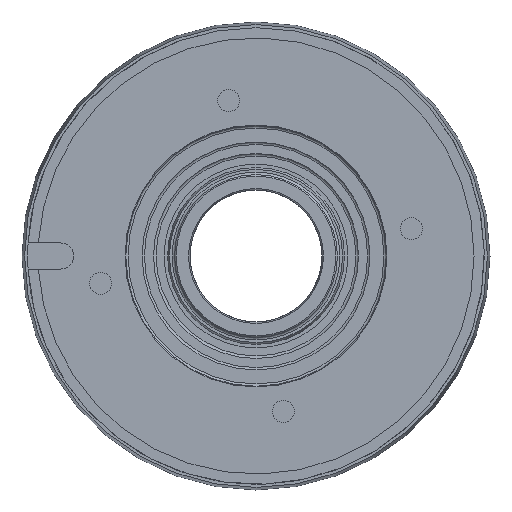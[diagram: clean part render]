
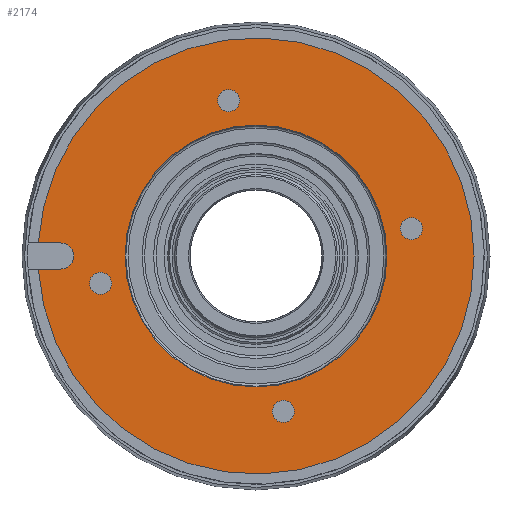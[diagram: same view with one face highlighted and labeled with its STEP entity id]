
A CAD part, left-side view. The second image highlights one B-rep face of the part: STEP entity #2174.
In plain terms, the highlighted planar face has unit normal (-1, 0, 0).
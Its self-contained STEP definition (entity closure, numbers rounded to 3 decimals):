
#26 = AXIS2_PLACEMENT_3D ( 'NONE', #350, #208, #1565 ) ;
#65 = CARTESIAN_POINT ( 'NONE',  ( 0., 75., -4. ) ) ;
#91 = CARTESIAN_POINT ( 'NONE',  ( 0., 0., 0. ) ) ;
#92 = AXIS2_PLACEMENT_3D ( 'NONE', #305, #1511, #978 ) ;
#116 = FACE_OUTER_BOUND ( 'NONE', #1197, .T. ) ;
#137 = AXIS2_PLACEMENT_3D ( 'NONE', #253, #1825, #1809 ) ;
#143 = DIRECTION ( 'NONE',  ( -1., 0., 0. ) ) ;
#208 = DIRECTION ( 'NONE',  ( -1., 0., 0. ) ) ;
#215 = EDGE_CURVE ( 'NONE', #584, #1737, #1985, .T. ) ;
#241 = EDGE_CURVE ( 'NONE', #584, #1023, #1181, .T. ) ;
#253 = CARTESIAN_POINT ( 'NONE',  ( 0., -8.422, -47.763 ) ) ;
#305 = CARTESIAN_POINT ( 'NONE',  ( 0., 47.763, -8.422 ) ) ;
#319 = CARTESIAN_POINT ( 'NONE',  ( 0., 66.88, 4. ) ) ;
#330 = FACE_BOUND ( 'NONE', #2087, .T. ) ;
#350 = CARTESIAN_POINT ( 'NONE',  ( 0., 0., 0. ) ) ;
#384 = ORIENTED_EDGE ( 'NONE', *, *, #508, .F. ) ;
#389 = VERTEX_POINT ( 'NONE', #2034 ) ;
#399 = DIRECTION ( 'NONE',  ( -1., 0., 0. ) ) ;
#455 = AXIS2_PLACEMENT_3D ( 'NONE', #91, #1815, #1654 ) ;
#479 = EDGE_CURVE ( 'NONE', #1289, #1737, #1340, .T. ) ;
#490 = EDGE_LOOP ( 'NONE', ( #384 ) ) ;
#493 = CIRCLE ( 'NONE', #991, 3.4 ) ;
#503 = VECTOR ( 'NONE', #2018, 1000. ) ;
#508 = EDGE_CURVE ( 'NONE', #389, #389, #1860, .T. ) ;
#533 = DIRECTION ( 'NONE',  ( 0., 0., 1. ) ) ;
#573 = FACE_BOUND ( 'NONE', #1077, .T. ) ;
#584 = VERTEX_POINT ( 'NONE', #1199 ) ;
#607 = AXIS2_PLACEMENT_3D ( 'NONE', #2024, #143, #667 ) ;
#617 = ORIENTED_EDGE ( 'NONE', *, *, #479, .F. ) ;
#664 = CARTESIAN_POINT ( 'NONE',  ( 0., 60., 0. ) ) ;
#667 = DIRECTION ( 'NONE',  ( 0., 0., 1. ) ) ;
#710 = VERTEX_POINT ( 'NONE', #1531 ) ;
#722 = DIRECTION ( 'NONE',  ( -1., 0., 0. ) ) ;
#760 = DIRECTION ( 'NONE',  ( 0., -1., 0. ) ) ;
#889 = AXIS2_PLACEMENT_3D ( 'NONE', #933, #399, #2144 ) ;
#901 = FACE_BOUND ( 'NONE', #490, .T. ) ;
#933 = CARTESIAN_POINT ( 'NONE',  ( 0., 0., 0. ) ) ;
#967 = PLANE ( 'NONE',  #455 ) ;
#978 = DIRECTION ( 'NONE',  ( 0., 0., 1. ) ) ;
#985 = EDGE_CURVE ( 'NONE', #1023, #1289, #1532, .T. ) ;
#991 = AXIS2_PLACEMENT_3D ( 'NONE', #1020, #722, #533 ) ;
#1017 = CARTESIAN_POINT ( 'NONE',  ( 0., 8.422, 51.163 ) ) ;
#1020 = CARTESIAN_POINT ( 'NONE',  ( 0., 8.422, 47.763 ) ) ;
#1023 = VERTEX_POINT ( 'NONE', #1193 ) ;
#1031 = CIRCLE ( 'NONE', #26, 40.25 ) ;
#1054 = ORIENTED_EDGE ( 'NONE', *, *, #1843, .F. ) ;
#1077 = EDGE_LOOP ( 'NONE', ( #2003 ) ) ;
#1181 = LINE ( 'NONE', #65, #2049 ) ;
#1193 = CARTESIAN_POINT ( 'NONE',  ( 0., 60., -4. ) ) ;
#1197 = EDGE_LOOP ( 'NONE', ( #617, #1936, #1316, #1968 ) ) ;
#1199 = CARTESIAN_POINT ( 'NONE',  ( 0., 66.88, -4. ) ) ;
#1289 = VERTEX_POINT ( 'NONE', #1596 ) ;
#1316 = ORIENTED_EDGE ( 'NONE', *, *, #241, .F. ) ;
#1340 = LINE ( 'NONE', #2037, #503 ) ;
#1382 = CARTESIAN_POINT ( 'NONE',  ( 0., 0., 40.25 ) ) ;
#1414 = FACE_BOUND ( 'NONE', #2139, .T. ) ;
#1485 = EDGE_LOOP ( 'NONE', ( #1054 ) ) ;
#1511 = DIRECTION ( 'NONE',  ( -1., 0., 0. ) ) ;
#1522 = VERTEX_POINT ( 'NONE', #1017 ) ;
#1531 = CARTESIAN_POINT ( 'NONE',  ( 0., 47.763, -5.022 ) ) ;
#1532 = CIRCLE ( 'NONE', #2187, 4. ) ;
#1537 = DIRECTION ( 'NONE',  ( 0., 0., 1. ) ) ;
#1565 = DIRECTION ( 'NONE',  ( 0., 0., 1. ) ) ;
#1579 = VERTEX_POINT ( 'NONE', #1382 ) ;
#1596 = CARTESIAN_POINT ( 'NONE',  ( 0., 60., 4. ) ) ;
#1614 = EDGE_CURVE ( 'NONE', #710, #710, #1824, .T. ) ;
#1654 = DIRECTION ( 'NONE',  ( 0., 0., 1. ) ) ;
#1717 = FACE_BOUND ( 'NONE', #1485, .T. ) ;
#1737 = VERTEX_POINT ( 'NONE', #319 ) ;
#1809 = DIRECTION ( 'NONE',  ( 0., 0., 1. ) ) ;
#1815 = DIRECTION ( 'NONE',  ( -1., 0., 0. ) ) ;
#1824 = CIRCLE ( 'NONE', #92, 3.4 ) ;
#1825 = DIRECTION ( 'NONE',  ( -1., 0., 0. ) ) ;
#1843 = EDGE_CURVE ( 'NONE', #1579, #1579, #1031, .T. ) ;
#1860 = CIRCLE ( 'NONE', #607, 3.4 ) ;
#1892 = ORIENTED_EDGE ( 'NONE', *, *, #1614, .F. ) ;
#1906 = CARTESIAN_POINT ( 'NONE',  ( 0., -8.422, -44.363 ) ) ;
#1922 = CIRCLE ( 'NONE', #137, 3.4 ) ;
#1936 = ORIENTED_EDGE ( 'NONE', *, *, #985, .F. ) ;
#1948 = VERTEX_POINT ( 'NONE', #1906 ) ;
#1968 = ORIENTED_EDGE ( 'NONE', *, *, #215, .T. ) ;
#1985 = CIRCLE ( 'NONE', #889, 67. ) ;
#2003 = ORIENTED_EDGE ( 'NONE', *, *, #2149, .F. ) ;
#2018 = DIRECTION ( 'NONE',  ( 0., 1., 0. ) ) ;
#2024 = CARTESIAN_POINT ( 'NONE',  ( 0., -47.763, 8.422 ) ) ;
#2027 = EDGE_CURVE ( 'NONE', #1522, #1522, #493, .T. ) ;
#2032 = DIRECTION ( 'NONE',  ( -1., 0., 0. ) ) ;
#2034 = CARTESIAN_POINT ( 'NONE',  ( 0., -47.763, 11.822 ) ) ;
#2037 = CARTESIAN_POINT ( 'NONE',  ( 0., 60., 4. ) ) ;
#2049 = VECTOR ( 'NONE', #760, 1000. ) ;
#2087 = EDGE_LOOP ( 'NONE', ( #2143 ) ) ;
#2139 = EDGE_LOOP ( 'NONE', ( #1892 ) ) ;
#2143 = ORIENTED_EDGE ( 'NONE', *, *, #2027, .F. ) ;
#2144 = DIRECTION ( 'NONE',  ( 0., 0., 1. ) ) ;
#2149 = EDGE_CURVE ( 'NONE', #1948, #1948, #1922, .T. ) ;
#2174 = ADVANCED_FACE ( 'NONE', ( #330, #901, #573, #1414, #116, #1717 ), #967, .T. ) ;
#2187 = AXIS2_PLACEMENT_3D ( 'NONE', #664, #2032, #1537 ) ;
